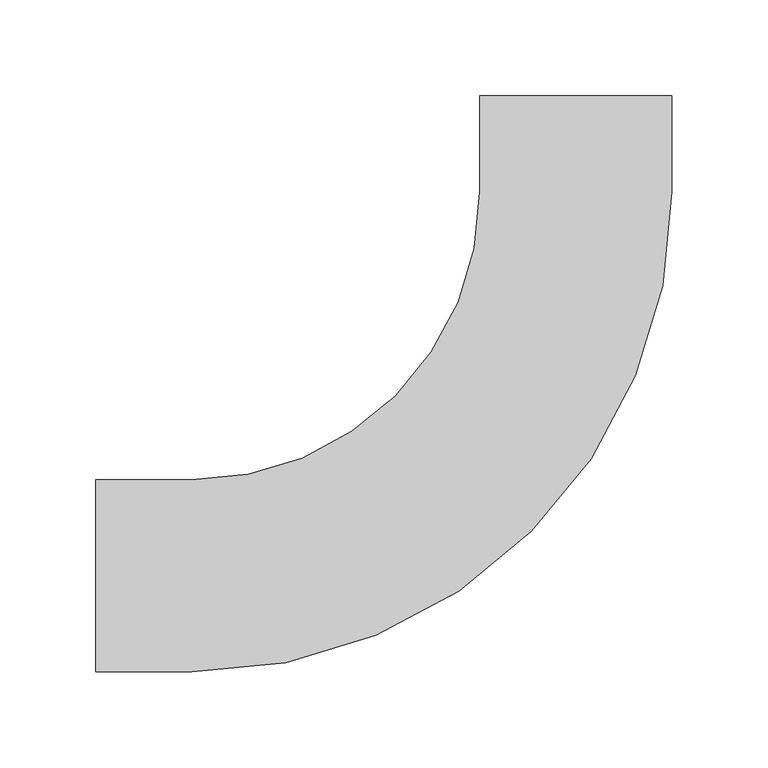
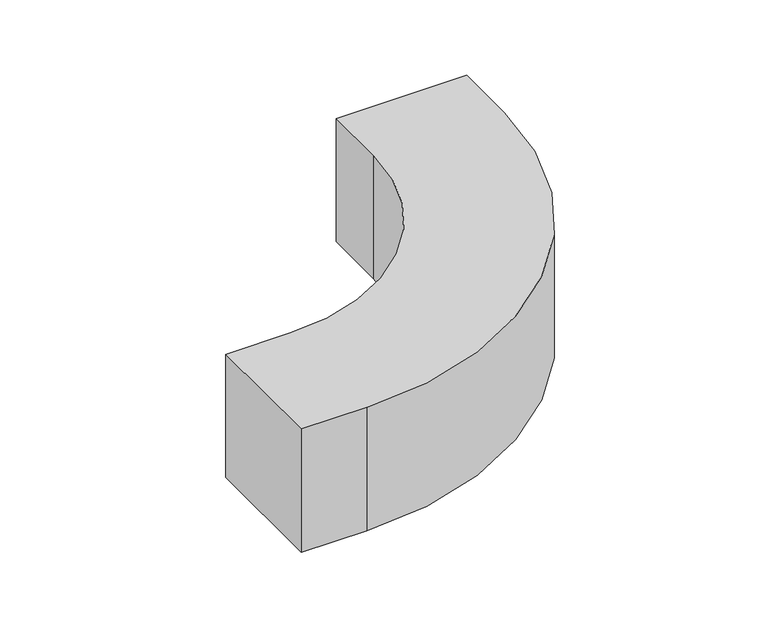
"""IFC4 building model written with IfcOpenShell, lengths in millimetres: duct fitting geometry, Отвод прямоугольного сечения : Стандартное."""

from ifc_helpers import new_model, si_unit, point, frame, frame_2d, origin, place, context, project, spatial, polyline, circle_curve, trimmed, segment, composite_curve, outline, extrude, source, transform, mapped, element, save


def duct_fitting_4f8e1142(model_context):
    return source(origin(), model_context, "Body", "SweptSolid", [
        extrude(outline(composite_curve([segment(polyline([(-250.0, -50.0), (-250.0, 50.0), (-200.0, 50.0)]), True, "CONTINUOUS"), segment(trimmed(circle_curve(frame_2d((-200.0, 200.0)), 150.0), [point((-200.0, 50.0))], [point((-50.0, 200.0))], True, "CARTESIAN"), True, "CONTINUOUS"), segment(polyline([(-50.0, 200.0), (-50.0, 250.0), (50.0, 250.0), (50.0, 200.0)]), True, "CONTINUOUS"), segment(trimmed(circle_curve(frame_2d((-200.0, 200.0)), 250.0), [point((50.0, 200.0))], [point((-200.0, -50.0))], False, "CARTESIAN"), True, "CONTINUOUS"), segment(polyline([(-200.0, -50.0), (-250.0, -50.0)]), True, "CONTINUOUS")], self_intersect=False)), frame((0.0, 0.0, -50.0), z_axis=(0.0, 0.0, 1.0), x_axis=(1.0, 0.0, 0.0)), (0.0, 0.0, 1.0), 100.0),
    ])


if __name__ == "__main__":
    model = new_model("IFC4")
    model_context = context("Model", 3, world=origin())
    ifc_project = project(units=[si_unit("LENGTHUNIT", "METRE", prefix="MILLI")], contexts=[model_context])
    site = spatial("IfcSite", under=ifc_project)
    building = spatial("IfcBuilding", under=site)
    placement = place(None, origin())
    duct_fitting_shape = duct_fitting_4f8e1142(model_context)
    element("IfcDuctFitting", 1, ObjectType="Отвод прямоугольного сечения : Стандартное", at=placement, inside=building, context=model_context, shape_type="MappedRepresentation", body=[
        mapped(duct_fitting_shape, transform((0.0, 0.0, 0.0), x_axis=(1.0, 0.0, 0.0), y_axis=(0.0, 1.0, 0.0), z_axis=(0.0, 0.0, 1.0))),
    ])
    save(model, "model.ifc")
